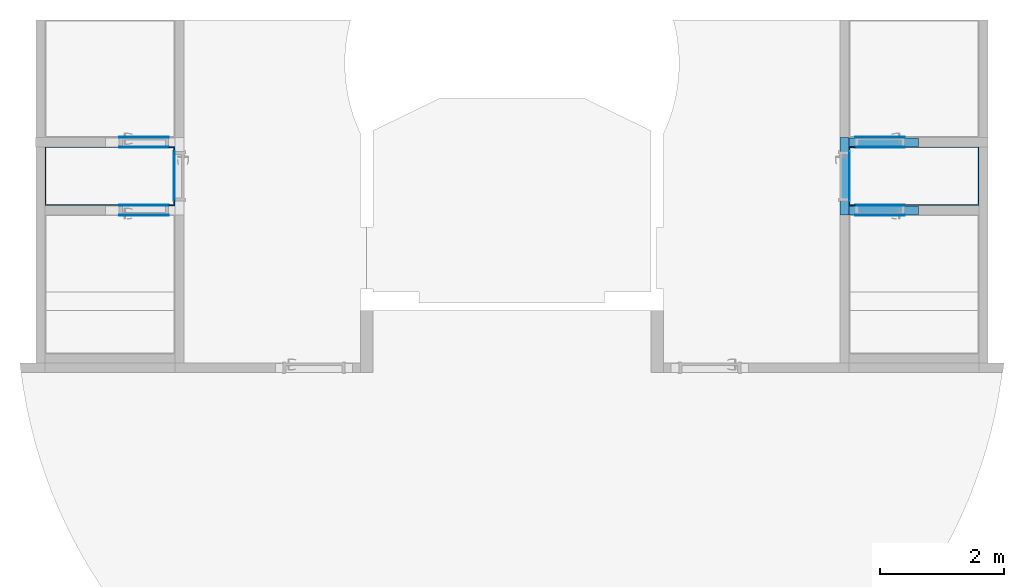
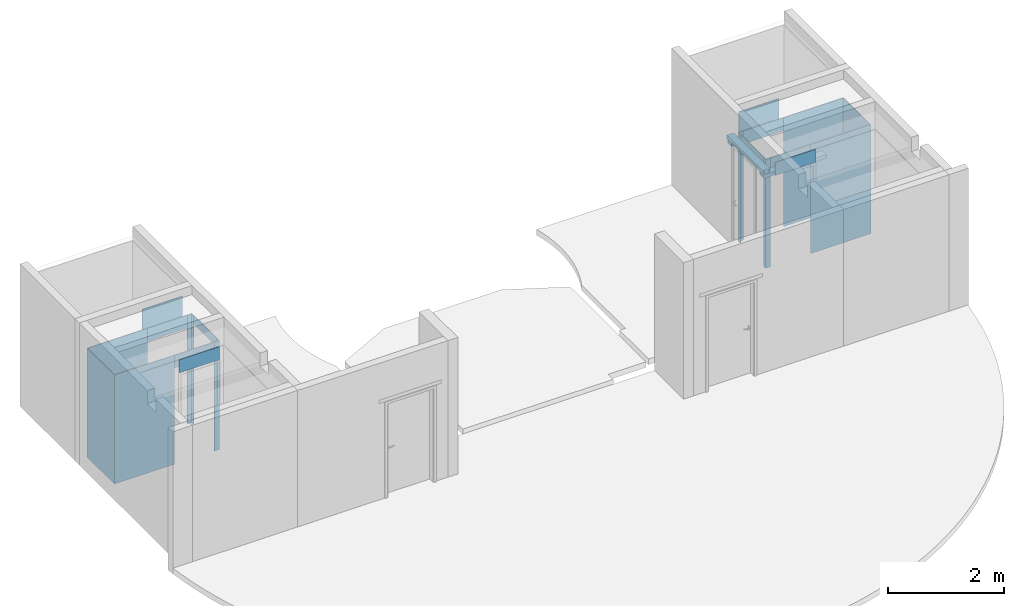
# One storey, part 2 of 17: 16 slabs, 3 beams.
"""IFC4 building model written with IfcOpenShell, lengths in millimetres."""

from ifc_helpers import new_model, entity, si_unit, converted_unit, derived_unit, direction, frame, origin_with_axes, place, context, subcontext, project, spatial, polygons, source, transform, mapped, material, type_object, element, save


model = new_model("IFC4")

# Units and contexts
model_context = context("Model", 3, precision=0.01, world=origin_with_axes(), true_north=direction((0.0, 1.0)))
body_context = subcontext(model_context, "Body", "Model", "MODEL_VIEW")
ifc_project = project(units=[si_unit("LENGTHUNIT", "METRE", prefix="MILLI"), si_unit("AREAUNIT", "SQUARE_METRE"), si_unit("VOLUMEUNIT", "CUBIC_METRE"), converted_unit("PLANEANGLEUNIT", "DEGREE", entity("IfcPlaneAngleMeasure", 0.0174532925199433), si_unit("PLANEANGLEUNIT", "RADIAN"), dimensions=[0, 0, 0, 0, 0, 0, 0]), converted_unit("TIMEUNIT", "Year", entity("IfcTimeMeasure", 31557600.0), si_unit("TIMEUNIT", "SECOND"), dimensions=[0, 0, 1, 0, 0, 0, 0]), si_unit("MASSUNIT", "GRAM", prefix="KILO"), si_unit("THERMODYNAMICTEMPERATUREUNIT", "DEGREE_CELSIUS"), si_unit("LUMINOUSINTENSITYUNIT", "LUMEN"), si_unit("ENERGYUNIT", "JOULE", prefix="MEGA"), derived_unit("THERMALCONDUCTANCEUNIT", [(si_unit("POWERUNIT", "WATT"), 1), (si_unit("LENGTHUNIT", "METRE"), -1), (si_unit("THERMODYNAMICTEMPERATUREUNIT", "KELVIN"), -1)]), derived_unit("SPECIFICHEATCAPACITYUNIT", [(si_unit("ENERGYUNIT", "JOULE"), 1), (si_unit("MASSUNIT", "GRAM", prefix="KILO"), -1), (si_unit("THERMODYNAMICTEMPERATUREUNIT", "KELVIN"), -1)]), derived_unit("MASSDENSITYUNIT", [(si_unit("MASSUNIT", "GRAM", prefix="KILO"), 1), (si_unit("VOLUMEUNIT", "CUBIC_METRE"), -1)])], contexts=[model_context])

# Site, building, storey
site_placement = place(None, origin_with_axes())
site = spatial("IfcSite", under=ifc_project, at=site_placement, Name="Exteriér", CompositionType="ELEMENT")
building_placement = place(site_placement, origin_with_axes())
building = spatial("IfcBuilding", under=site, at=building_placement, Name="Univerzitní lezecké centrum", CompositionType="ELEMENT")
storey_placement = place(building_placement, frame((0.0, 0.0, 3200.0), z_axis=(0.0, 0.0, 1.0), x_axis=(1.0, 0.0, 0.0)))
storey = spatial("IfcBuildingStorey", under=building, at=storey_placement, Name="2.NP", CompositionType="ELEMENT", Elevation=3200.0)

# Beams
beam_type = type_object("IfcBeamType", Name="PTH Překlad KP 11,5 a 14,5", PredefinedType="BEAM")
shared_shape = source(origin_with_axes(), body_context, "Body", "Tessellation", [
    polygons([(-625.0, 44.3486623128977, 71.00000000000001), (-625.0, 0.0, 71.00000000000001), (625.0, 0.0, 71.00000000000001), (625.0, 44.34866231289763, 71.00000000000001), (-625.0, 44.34866231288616, 36.49999605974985), (-625.0, 46.47223501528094, 31.73716465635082), (-625.0, 49.39641603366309, 27.4240948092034), (-625.0, 53.02998777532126, 23.69532943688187), (-625.0, 57.25960374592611, 20.66718452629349), (-625.0, 61.95332430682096, 18.4341207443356), (-625.0, 66.96473243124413, 17.06579680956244), (-625.0, 72.13750107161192, 16.60489654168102), (-625.0, 77.31026966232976, 17.06579737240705), (-625.0, 82.32167763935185, 18.43412185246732), (-625.0, 87.01539795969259, 20.66718614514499), (-625.0, 91.24501360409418, 23.69533151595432), (-625.0, 94.87858494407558, 27.42409728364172), (-625.0, 97.80276549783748, 31.7371674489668), (-625.0, 99.92633768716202, 36.49999908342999), (-625.0, 99.926337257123, 71.00000000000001), (-625.0, 144.274998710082, 71.0), (-625.0, 144.274998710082, 0.0), (-625.0, 0.0, 0.0), (-625.0, 11.4425, 10.49963740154), (-625.0, 33.3325, 10.49963740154), (-625.0, 33.3325, 30.49963740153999), (-625.0, 11.4425, 30.49963740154), (-625.0, 11.4425, 40.5), (-625.0, 33.3325, 40.5), (-625.0, 33.33250000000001, 60.5), (-625.0, 11.4425, 60.5), (-625.0, 132.83136377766, 10.49963740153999), (-625.0, 132.83136377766, 30.49963740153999), (-625.0, 110.94136377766, 30.49963740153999), (-625.0, 110.94136377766, 10.49963740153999), (-625.0, 110.94136377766, 60.49999999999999), (-625.0, 110.94136377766, 40.49999999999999), (-625.0, 132.83136377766, 40.49999999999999), (-625.0, 132.83136377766, 60.49999999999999), (625.0, 0.0, 0.0), (625.0, 144.2749987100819, 0.0), (625.0, 144.2749987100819, 71.0), (625.0, 99.92633725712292, 71.00000000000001), (625.0, 99.92633768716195, 36.49999908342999), (625.0, 97.80276549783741, 31.7371674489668), (625.0, 94.87858494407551, 27.42409728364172), (625.0, 91.24501360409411, 23.69533151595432), (625.0, 87.01539795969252, 20.66718614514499), (625.0, 82.32167763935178, 18.43412185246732), (625.0, 77.31026966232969, 17.06579737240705), (625.0, 72.13750107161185, 16.60489654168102), (625.0, 66.96473243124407, 17.06579680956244), (625.0, 61.95332430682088, 18.4341207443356), (625.0, 57.25960374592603, 20.66718452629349), (625.0, 53.02998777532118, 23.69532943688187), (625.0, 49.39641603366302, 27.4240948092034), (625.0, 46.47223501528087, 31.73716465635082), (625.0, 44.34866231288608, 36.49999605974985), (625.0, 11.44249999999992, 10.49963740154), (625.0, 11.44249999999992, 30.49963740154), (625.0, 33.33249999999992, 30.49963740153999), (625.0, 33.33249999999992, 10.49963740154), (625.0, 11.44249999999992, 40.5), (625.0, 11.44249999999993, 60.5), (625.0, 33.33249999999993, 60.5), (625.0, 33.33249999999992, 40.5), (625.0, 132.8313637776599, 10.49963740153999), (625.0, 110.9413637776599, 10.49963740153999), (625.0, 110.9413637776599, 30.49963740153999), (625.0, 132.8313637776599, 30.49963740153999), (625.0, 110.9413637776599, 60.49999999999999), (625.0, 132.8313637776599, 60.49999999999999), (625.0, 132.8313637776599, 40.49999999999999), (625.0, 110.9413637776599, 40.49999999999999)], [[[1, 2, 3, 4]], [[1, 5, 6, 7, 8, 9, 10, 11, 12, 13, 14, 15, 16, 17, 18, 19, 20, 21, 22, 23, 2], [24, 25, 26, 27], [28, 29, 30, 31], [32, 33, 34, 35], [36, 37, 38, 39]], [[2, 23, 40, 3]], [[4, 3, 40, 41, 42, 43, 44, 45, 46, 47, 48, 49, 50, 51, 52, 53, 54, 55, 56, 57, 58], [59, 60, 61, 62], [63, 64, 65, 66], [67, 68, 69, 70], [71, 72, 73, 74]], [[5, 1, 4, 58]], [[6, 5, 58, 57]], [[7, 6, 57, 56]], [[8, 7, 56, 55]], [[9, 8, 55, 54]], [[10, 9, 54, 53]], [[11, 10, 53, 52]], [[12, 11, 52, 51]], [[13, 12, 51, 50]], [[14, 13, 50, 49]], [[15, 14, 49, 48]], [[16, 15, 48, 47]], [[17, 16, 47, 46]], [[18, 17, 46, 45]], [[19, 18, 45, 44]], [[20, 19, 44, 43]], [[21, 20, 43, 42]], [[22, 21, 42, 41]], [[23, 22, 41, 40]], [[25, 24, 59, 62]], [[26, 25, 62, 61]], [[27, 26, 61, 60]], [[24, 27, 60, 59]], [[29, 28, 63, 66]], [[30, 29, 66, 65]], [[31, 30, 65, 64]], [[28, 31, 64, 63]], [[33, 32, 67, 70]], [[34, 33, 70, 69]], [[35, 34, 69, 68]], [[32, 35, 68, 67]], [[37, 36, 71, 74]], [[38, 37, 74, 73]], [[39, 38, 73, 72]], [[36, 39, 72, 71]]], closed=True),
    polygons([(-625.0, 44.34866231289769, 36.5), (-625.0, 46.47223492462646, 31.73716874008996), (625.0, 46.47223492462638, 31.73716874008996), (625.0, 44.34866231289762, 36.5), (-625.0, 44.3486623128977, 71.00000000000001), (-625.0, 99.926337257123, 71.00000000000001), (-625.0, 99.92633725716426, 36.50000000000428), (-625.0, 97.80276464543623, 31.7371687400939), (-625.0, 94.87858377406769, 27.42409899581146), (-625.0, 91.24501222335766, 23.69533367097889), (-625.0, 87.0153964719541, 20.66718874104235), (-625.0, 82.32167614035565, 18.43412486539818), (-625.0, 77.31026823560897, 17.06580075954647), (-625.0, 72.1374997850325, 16.60490024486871), (-625.0, 66.96473133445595, 17.06580075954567), (-625.0, 61.95332342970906, 18.4341248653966), (-625.0, 57.25960309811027, 20.66718874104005), (-625.0, 53.02998734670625, 23.69533367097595), (-625.0, 49.39641579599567, 27.42409899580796), (-625.0, 78.10749978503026, 42.49999925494), (-625.0, 78.01680207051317, 43.54188832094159), (-625.0, 77.74746473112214, 44.55212011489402), (-625.0, 77.30767144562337, 45.49999925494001), (-625.0, 76.71078511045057, 46.35672491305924), (-625.0, 75.97494181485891, 47.09626591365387), (-625.0, 75.12249978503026, 47.69615167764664), (-625.0, 74.17936004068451, 48.13815497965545), (-625.0, 73.17417940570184, 48.40884577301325), (-625.0, 72.13749978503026, 48.49999925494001), (-625.0, 71.1008201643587, 48.40884577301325), (-625.0, 70.09563952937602, 48.13815497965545), (-625.0, 69.15249978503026, 47.69615167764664), (-625.0, 68.30005775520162, 47.09626591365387), (-625.0, 67.56421445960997, 46.35672491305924), (-625.0, 66.96732812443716, 45.49999925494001), (-625.0, 66.5275348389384, 44.55212011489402), (-625.0, 66.25819749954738, 43.54188832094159), (-625.0, 66.16749978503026, 42.49999925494), (-625.0, 66.25819749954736, 41.45811018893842), (-625.0, 66.52753483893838, 40.44787839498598), (-625.0, 66.96732812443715, 39.49999925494), (-625.0, 67.56421445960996, 38.64327359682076), (-625.0, 68.3000577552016, 37.90373259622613), (-625.0, 69.15249978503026, 37.30384683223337), (-625.0, 70.09563952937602, 36.86184353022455), (-625.0, 71.1008201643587, 36.59115273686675), (-625.0, 72.13749978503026, 36.49999925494), (-625.0, 73.17417940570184, 36.59115273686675), (-625.0, 74.17936004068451, 36.86184353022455), (-625.0, 75.12249978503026, 37.30384683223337), (-625.0, 75.9749418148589, 37.90373259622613), (-625.0, 76.71078511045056, 38.64327359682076), (-625.0, 77.30767144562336, 39.49999925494), (-625.0, 77.74746473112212, 40.44787839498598), (-625.0, 78.01680207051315, 41.45811018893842), (625.0, 49.39641579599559, 27.42409899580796), (625.0, 53.02998734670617, 23.69533367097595), (625.0, 57.25960309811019, 20.66718874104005), (625.0, 61.95332342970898, 18.4341248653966), (625.0, 66.96473133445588, 17.06580075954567), (625.0, 72.13749978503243, 16.60490024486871), (625.0, 77.3102682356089, 17.06580075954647), (625.0, 82.32167614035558, 18.43412486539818), (625.0, 87.01539647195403, 20.66718874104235), (625.0, 91.24501222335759, 23.69533367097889), (625.0, 94.87858377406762, 27.42409899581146), (625.0, 97.80276464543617, 31.7371687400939), (625.0, 99.92633725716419, 36.50000000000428), (625.0, 99.92633725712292, 71.00000000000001), (625.0, 44.34866231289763, 71.00000000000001), (625.0, 78.10749978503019, 42.49999925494), (625.0, 78.01680207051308, 41.45811018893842), (625.0, 77.74746473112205, 40.44787839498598), (625.0, 77.30767144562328, 39.49999925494), (625.0, 76.71078511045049, 38.64327359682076), (625.0, 75.97494181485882, 37.90373259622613), (625.0, 75.12249978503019, 37.30384683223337), (625.0, 74.17936004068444, 36.86184353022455), (625.0, 73.17417940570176, 36.59115273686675), (625.0, 72.13749978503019, 36.49999925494), (625.0, 71.10082016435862, 36.59115273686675), (625.0, 70.09563952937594, 36.86184353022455), (625.0, 69.15249978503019, 37.30384683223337), (625.0, 68.30005775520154, 37.90373259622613), (625.0, 67.56421445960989, 38.64327359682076), (625.0, 66.96732812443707, 39.49999925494), (625.0, 66.52753483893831, 40.44787839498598), (625.0, 66.2581974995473, 41.45811018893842), (625.0, 66.16749978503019, 42.49999925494), (625.0, 66.25819749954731, 43.54188832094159), (625.0, 66.52753483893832, 44.55212011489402), (625.0, 66.96732812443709, 45.49999925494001), (625.0, 67.5642144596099, 46.35672491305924), (625.0, 68.30005775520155, 47.09626591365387), (625.0, 69.15249978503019, 47.69615167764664), (625.0, 70.09563952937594, 48.13815497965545), (625.0, 71.10082016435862, 48.40884577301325), (625.0, 72.13749978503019, 48.49999925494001), (625.0, 73.17417940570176, 48.40884577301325), (625.0, 74.17936004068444, 48.13815497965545), (625.0, 75.12249978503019, 47.69615167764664), (625.0, 75.97494181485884, 47.09626591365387), (625.0, 76.7107851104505, 46.35672491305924), (625.0, 77.3076714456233, 45.49999925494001), (625.0, 77.74746473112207, 44.55212011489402), (625.0, 78.0168020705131, 43.54188832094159)], [[[1, 2, 3, 4]], [[1, 5, 6, 7, 8, 9, 10, 11, 12, 13, 14, 15, 16, 17, 18, 19, 2], [20, 21, 22, 23, 24, 25, 26, 27, 28, 29, 30, 31, 32, 33, 34, 35, 36, 37, 38, 39, 40, 41, 42, 43, 44, 45, 46, 47, 48, 49, 50, 51, 52, 53, 54, 55]], [[2, 19, 56, 3]], [[4, 3, 56, 57, 58, 59, 60, 61, 62, 63, 64, 65, 66, 67, 68, 69, 70], [71, 72, 73, 74, 75, 76, 77, 78, 79, 80, 81, 82, 83, 84, 85, 86, 87, 88, 89, 90, 91, 92, 93, 94, 95, 96, 97, 98, 99, 100, 101, 102, 103, 104, 105, 106]], [[5, 1, 4, 70]], [[6, 5, 70, 69]], [[7, 6, 69, 68]], [[8, 7, 68, 67]], [[9, 8, 67, 66]], [[10, 9, 66, 65]], [[11, 10, 65, 64]], [[12, 11, 64, 63]], [[13, 12, 63, 62]], [[14, 13, 62, 61]], [[15, 14, 61, 60]], [[16, 15, 60, 59]], [[17, 16, 59, 58]], [[18, 17, 58, 57]], [[19, 18, 57, 56]], [[21, 20, 71, 106]], [[22, 21, 106, 105]], [[23, 22, 105, 104]], [[24, 23, 104, 103]], [[25, 24, 103, 102]], [[26, 25, 102, 101]], [[27, 26, 101, 100]], [[28, 27, 100, 99]], [[29, 28, 99, 98]], [[30, 29, 98, 97]], [[31, 30, 97, 96]], [[32, 31, 96, 95]], [[33, 32, 95, 94]], [[34, 33, 94, 93]], [[35, 34, 93, 92]], [[36, 35, 92, 91]], [[37, 36, 91, 90]], [[38, 37, 90, 89]], [[39, 38, 89, 88]], [[40, 39, 88, 87]], [[41, 40, 87, 86]], [[42, 41, 86, 85]], [[43, 42, 85, 84]], [[44, 43, 84, 83]], [[45, 44, 83, 82]], [[46, 45, 82, 81]], [[47, 46, 81, 80]], [[48, 47, 80, 79]], [[49, 48, 79, 78]], [[50, 49, 78, 77]], [[51, 50, 77, 76]], [[52, 51, 76, 75]], [[53, 52, 75, 74]], [[54, 53, 74, 73]], [[55, 54, 73, 72]], [[20, 55, 72, 71]]], closed=True),
    polygons([(-625.0, 66.16749978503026, 42.49999925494), (-625.0, 66.25819749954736, 41.45811018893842), (625.0, 66.2581974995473, 41.45811018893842), (625.0, 66.16749978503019, 42.49999925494), (-625.0, 66.25819749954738, 43.54188832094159), (-625.0, 66.5275348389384, 44.55212011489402), (-625.0, 66.96732812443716, 45.49999925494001), (-625.0, 67.56421445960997, 46.35672491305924), (-625.0, 68.30005775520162, 47.09626591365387), (-625.0, 69.15249978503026, 47.69615167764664), (-625.0, 70.09563952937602, 48.13815497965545), (-625.0, 71.1008201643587, 48.40884577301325), (-625.0, 72.13749978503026, 48.49999925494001), (-625.0, 73.17417940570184, 48.40884577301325), (-625.0, 74.17936004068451, 48.13815497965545), (-625.0, 75.12249978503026, 47.69615167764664), (-625.0, 75.97494181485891, 47.09626591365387), (-625.0, 76.71078511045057, 46.35672491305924), (-625.0, 77.30767144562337, 45.49999925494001), (-625.0, 77.74746473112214, 44.55212011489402), (-625.0, 78.01680207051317, 43.54188832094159), (-625.0, 78.10749978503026, 42.49999925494), (-625.0, 78.01680207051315, 41.45811018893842), (-625.0, 77.74746473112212, 40.44787839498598), (-625.0, 77.30767144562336, 39.49999925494), (-625.0, 76.71078511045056, 38.64327359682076), (-625.0, 75.9749418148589, 37.90373259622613), (-625.0, 75.12249978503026, 37.30384683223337), (-625.0, 74.17936004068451, 36.86184353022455), (-625.0, 73.17417940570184, 36.59115273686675), (-625.0, 72.13749978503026, 36.49999925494), (-625.0, 71.1008201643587, 36.59115273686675), (-625.0, 70.09563952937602, 36.86184353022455), (-625.0, 69.15249978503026, 37.30384683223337), (-625.0, 68.3000577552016, 37.90373259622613), (-625.0, 67.56421445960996, 38.64327359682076), (-625.0, 66.96732812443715, 39.49999925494), (-625.0, 66.52753483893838, 40.44787839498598), (625.0, 66.52753483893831, 40.44787839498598), (625.0, 66.96732812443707, 39.49999925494), (625.0, 67.56421445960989, 38.64327359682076), (625.0, 68.30005775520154, 37.90373259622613), (625.0, 69.15249978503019, 37.30384683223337), (625.0, 70.09563952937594, 36.86184353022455), (625.0, 71.10082016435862, 36.59115273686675), (625.0, 72.13749978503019, 36.49999925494), (625.0, 73.17417940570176, 36.59115273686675), (625.0, 74.17936004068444, 36.86184353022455), (625.0, 75.12249978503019, 37.30384683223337), (625.0, 75.97494181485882, 37.90373259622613), (625.0, 76.71078511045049, 38.64327359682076), (625.0, 77.30767144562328, 39.49999925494), (625.0, 77.74746473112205, 40.44787839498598), (625.0, 78.01680207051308, 41.45811018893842), (625.0, 78.10749978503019, 42.49999925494), (625.0, 78.0168020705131, 43.54188832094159), (625.0, 77.74746473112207, 44.55212011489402), (625.0, 77.3076714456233, 45.49999925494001), (625.0, 76.7107851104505, 46.35672491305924), (625.0, 75.97494181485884, 47.09626591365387), (625.0, 75.12249978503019, 47.69615167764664), (625.0, 74.17936004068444, 48.13815497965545), (625.0, 73.17417940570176, 48.40884577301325), (625.0, 72.13749978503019, 48.49999925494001), (625.0, 71.10082016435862, 48.40884577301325), (625.0, 70.09563952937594, 48.13815497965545), (625.0, 69.15249978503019, 47.69615167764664), (625.0, 68.30005775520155, 47.09626591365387), (625.0, 67.5642144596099, 46.35672491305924), (625.0, 66.96732812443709, 45.49999925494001), (625.0, 66.52753483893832, 44.55212011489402), (625.0, 66.25819749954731, 43.54188832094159)], [[[1, 2, 3, 4]], [[1, 5, 6, 7, 8, 9, 10, 11, 12, 13, 14, 15, 16, 17, 18, 19, 20, 21, 22, 23, 24, 25, 26, 27, 28, 29, 30, 31, 32, 33, 34, 35, 36, 37, 38, 2]], [[2, 38, 39, 3]], [[4, 3, 39, 40, 41, 42, 43, 44, 45, 46, 47, 48, 49, 50, 51, 52, 53, 54, 55, 56, 57, 58, 59, 60, 61, 62, 63, 64, 65, 66, 67, 68, 69, 70, 71, 72]], [[5, 1, 4, 72]], [[6, 5, 72, 71]], [[7, 6, 71, 70]], [[8, 7, 70, 69]], [[9, 8, 69, 68]], [[10, 9, 68, 67]], [[11, 10, 67, 66]], [[12, 11, 66, 65]], [[13, 12, 65, 64]], [[14, 13, 64, 63]], [[15, 14, 63, 62]], [[16, 15, 62, 61]], [[17, 16, 61, 60]], [[18, 17, 60, 59]], [[19, 18, 59, 58]], [[20, 19, 58, 57]], [[21, 20, 57, 56]], [[22, 21, 56, 55]], [[23, 22, 55, 54]], [[24, 23, 54, 53]], [[25, 24, 53, 52]], [[26, 25, 52, 51]], [[27, 26, 51, 50]], [[28, 27, 50, 49]], [[29, 28, 49, 48]], [[30, 29, 48, 47]], [[31, 30, 47, 46]], [[32, 31, 46, 45]], [[33, 32, 45, 44]], [[34, 33, 44, 43]], [[35, 34, 43, 42]], [[36, 35, 42, 41]], [[37, 36, 41, 40]], [[38, 37, 40, 39]]], closed=True),
])
for number, where, z_axis, x_axis, name in (
    (1, (8400.055063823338, 1250.031951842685, 2030.0), (0.0, 0.0, 1.0), (1.0, 0.0, 0.0), "Pk01"),
    (2, (8400.047690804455, 2349.999999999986, 2030.0), (0.0, 0.0, 1.0), (1.0, 0.0, 0.0), "Pk01"),
    (3, (7900.05506442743, 1874.999999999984, 2130.0), (0.0, 0.0, 1.0), (0.0, 1.0, 0.0), "Pk01"),
):
    element("IfcBeam", number, at=place(storey_placement, frame(where, z_axis=z_axis, x_axis=x_axis)), inside=storey, type_object=beam_type, Name=name, PredefinedType="BEAM", context=body_context, shape_type="MappedRepresentation", body=[
        mapped(shared_shape, transform((0.0, 0.0, 0.0))),
    ])

# Slabs
ifc_material = material(Name="Keramická dlažba 20x40 - obklad")
slab_type_1 = type_object("IfcSlabType", Name="Keramická dlažba 20x40 - obklad 2300", PredefinedType="FLOOR")
slab_1_placement = place(storey_placement, frame((-3900.344399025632, 2350.000000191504, 2300.0), z_axis=(0.0, 0.0, 1.0), x_axis=(1.0, 0.0, 0.0)))
element("IfcSlab", 4, at=slab_1_placement, inside=storey, type_object=slab_type_1, material=ifc_material, PredefinedType="FLOOR", context=body_context, shape_type="Tessellation", body=[
    polygons([(0.0, 0.0, 0.0), (0.0, 0.0, -2300.0), (-1199.803952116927, 0.0, -2300.0), (-1199.803952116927, 0.0, 0.0), (0.0, -14.99999975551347, 0.0), (0.0, -14.99999975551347, -2300.0), (-1184.803952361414, -14.99999975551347, -2300.0), (-1184.803952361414, -934.9926213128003, -2300.0), (0.0, -934.9926213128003, -2300.0), (0.0, -949.9926210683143, -2300.0), (-1199.803952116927, -949.9926210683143, -2300.0), (-1199.803952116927, -949.9926210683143, 0.0), (0.0, -949.9926210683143, 0.0), (0.0, -934.9926213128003, 0.0), (-1184.803952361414, -934.9926213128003, 0.0), (-1184.803952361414, -14.99999975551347, 0.0)], [[[1, 2, 3, 4]], [[5, 6, 2, 1]], [[3, 2, 6, 7, 8, 9, 10, 11]], [[4, 3, 11, 12]], [[5, 1, 4, 12, 13, 14, 15, 16]], [[16, 7, 6, 5]], [[15, 8, 7, 16]], [[14, 9, 8, 15]], [[13, 10, 9, 14]], [[12, 11, 10, 13]]], closed=True),
])
slab_2_placement = place(storey_placement, frame((-3100.351769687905, 1400.007379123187, 2300.0), z_axis=(0.0, 0.0, 1.0), x_axis=(1.0, 0.0, 0.0)))
element("IfcSlab", 5, at=slab_2_placement, inside=storey, type_object=slab_type_1, material=ifc_material, PredefinedType="FLOOR", context=body_context, shape_type="Tessellation", body=[
    polygons([(0.0, 0.0, 0.0), (0.0, 0.0, -2300.0), (99.99999887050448, 0.0, -2300.0), (99.99999887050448, 0.0, 0.0), (0.0, 15.00000195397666, 0.0), (0.0, 15.00000195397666, -2300.0), (84.99999691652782, 15.00000195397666, -2300.0), (84.99999691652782, 74.99262033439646, -2300.0), (99.99999887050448, 74.99262033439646, -2300.0), (99.99999887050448, 74.99262033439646, 0.0), (84.99999691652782, 74.99262033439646, 0.0), (84.99999691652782, 15.00000195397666, 0.0)], [[[1, 2, 3, 4]], [[5, 6, 2, 1]], [[3, 2, 6, 7, 8, 9]], [[4, 3, 9, 10]], [[5, 1, 4, 10, 11, 12]], [[12, 7, 6, 5]], [[11, 8, 7, 12]], [[10, 9, 8, 11]]], closed=True),
])
slab_3_placement = place(storey_placement, frame((-3100.351769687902, 2334.999998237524, 2300.0), z_axis=(0.0, 0.0, 1.0), x_axis=(1.0, 0.0, 0.0)))
element("IfcSlab", 6, at=slab_3_placement, inside=storey, type_object=slab_type_1, material=ifc_material, PredefinedType="FLOOR", context=body_context, shape_type="Tessellation", body=[
    polygons([(0.0, 0.0, 0.0), (0.0, 0.0, -2300.0), (84.99999691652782, 0.0, -2300.0), (84.99999691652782, 0.0, 0.0), (0.0, 15.00000195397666, 0.0), (0.0, 15.00000195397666, -2300.0), (99.99999887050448, 15.00000195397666, -2300.0), (99.99999887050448, -59.99999365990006, -2300.0), (84.99999691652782, -59.99999365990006, -2300.0), (84.99999691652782, -59.99999365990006, 0.0), (99.99999887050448, -59.99999365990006, 0.0), (99.99999887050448, 15.00000195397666, 0.0)], [[[1, 2, 3, 4]], [[5, 6, 2, 1]], [[3, 2, 6, 7, 8, 9]], [[4, 3, 9, 10]], [[5, 1, 4, 10, 11, 12]], [[12, 7, 6, 5]], [[11, 8, 7, 12]], [[10, 9, 8, 11]]], closed=True),
])
slab_4_placement = place(storey_placement, frame((8800.089551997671, 2350.000000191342, 2300.0), z_axis=(0.0, 0.0, 1.0), x_axis=(1.0, 0.0, 0.0)))
element("IfcSlab", 7, at=slab_4_placement, inside=storey, type_object=slab_type_1, material=ifc_material, PredefinedType="FLOOR", context=body_context, shape_type="Tessellation", body=[
    polygons([(0.0, 0.0, 0.0), (0.0, 0.0, -2300.0), (0.0, -14.99999975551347, -2300.0), (0.0, -14.99999975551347, 0.0), (1199.803952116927, 0.0, 0.0), (1199.803952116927, 0.0, -2300.0), (1199.803952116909, -949.9926210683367, -2300.0), (0.0, -949.9926210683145, -2300.0), (0.0, -934.9926213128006, -2300.0), (1184.803952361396, -934.9926213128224, -2300.0), (1184.803952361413, -14.99999975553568, -2300.0), (1184.803952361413, -14.99999975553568, 0.0), (1184.803952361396, -934.9926213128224, 0.0), (0.0, -934.9926213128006, 0.0), (0.0, -949.9926210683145, 0.0), (1199.803952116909, -949.9926210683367, 0.0)], [[[1, 2, 3, 4]], [[5, 6, 2, 1]], [[3, 2, 6, 7, 8, 9, 10, 11]], [[4, 3, 11, 12]], [[5, 1, 4, 12, 13, 14, 15, 16]], [[16, 7, 6, 5]], [[15, 8, 7, 16]], [[14, 9, 8, 15]], [[13, 10, 9, 14]], [[12, 11, 10, 13]]], closed=True),
])
slab_5_placement = place(storey_placement, frame((8000.096922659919, 1400.007379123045, 2300.0), z_axis=(0.0, 0.0, 1.0), x_axis=(1.0, 0.0, 0.0)))
element("IfcSlab", 8, at=slab_5_placement, inside=storey, type_object=slab_type_1, material=ifc_material, PredefinedType="FLOOR", context=body_context, shape_type="Tessellation", body=[
    polygons([(0.0, 0.0, 0.0), (0.0, 0.0, -2300.0), (0.0, 15.00000195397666, -2300.0), (0.0, 15.00000195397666, 0.0), (-99.99999887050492, 0.0, 0.0), (-99.99999887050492, 0.0, -2300.0), (-99.99999887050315, 74.99262033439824, -2300.0), (-84.99999691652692, 74.99262033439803, -2300.0), (-84.99999691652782, 15.00000195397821, -2300.0), (-84.99999691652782, 15.00000195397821, 0.0), (-84.99999691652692, 74.99262033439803, 0.0), (-99.99999887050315, 74.99262033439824, 0.0)], [[[1, 2, 3, 4]], [[5, 6, 2, 1]], [[3, 2, 6, 7, 8, 9]], [[4, 3, 9, 10]], [[5, 1, 4, 10, 11, 12]], [[12, 7, 6, 5]], [[11, 8, 7, 12]], [[10, 9, 8, 11]]], closed=True),
])
slab_6_placement = place(storey_placement, frame((8000.096922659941, 2334.999998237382, 2300.0), z_axis=(0.0, 0.0, 1.0), x_axis=(1.0, 0.0, 0.0)))
element("IfcSlab", 9, at=slab_6_placement, inside=storey, type_object=slab_type_1, material=ifc_material, PredefinedType="FLOOR", context=body_context, shape_type="Tessellation", body=[
    polygons([(0.0, 0.0, 0.0), (0.0, 0.0, -2300.0), (0.0, 15.00000195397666, -2300.0), (0.0, 15.00000195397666, 0.0), (-84.99999691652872, 0.0, 0.0), (-84.99999691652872, 0.0, -2300.0), (-84.9999969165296, -59.99999365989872, -2300.0), (-99.9999988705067, -59.99999365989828, -2300.0), (-99.99999887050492, 15.00000195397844, -2300.0), (-99.99999887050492, 15.00000195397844, 0.0), (-99.9999988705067, -59.99999365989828, 0.0), (-84.9999969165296, -59.99999365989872, 0.0)], [[[1, 2, 3, 4]], [[5, 6, 2, 1]], [[3, 2, 6, 7, 8, 9]], [[4, 3, 9, 10]], [[5, 1, 4, 10, 11, 12]], [[12, 7, 6, 5]], [[11, 8, 7, 12]], [[10, 9, 8, 11]]], closed=True),
])
slab_type_2 = type_object("IfcSlabType", Name="Keramická dlažba 20x40 - obklad 575", PredefinedType="FLOOR")
slab_7_placement = place(storey_placement, frame((8800.089551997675, 2499.999989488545, 2600.0), z_axis=(0.0, 0.0, 1.0), x_axis=(1.0, 0.0, 0.0)))
element("IfcSlab", 10, at=slab_7_placement, inside=storey, type_object=slab_type_2, material=ifc_material, PredefinedType="FLOOR", context=body_context, shape_type="Tessellation", body=[
    polygons([(0.0, 0.0, 0.0), (0.0, 0.0, -575.0000000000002), (0.0, 14.99999764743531, -575.0000000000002), (0.0, 14.99999764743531, 0.0), (-800.0000309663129, 0.0, 0.0), (-800.0000309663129, 0.0, -575.0000000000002), (-800.0000309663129, 14.99999764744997, -575.0000000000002), (-800.0000309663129, 14.99999764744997, 0.0)], [[[1, 2, 3, 4]], [[5, 6, 2, 1]], [[3, 2, 6, 7]], [[4, 3, 7, 8]], [[5, 1, 4, 8]], [[8, 7, 6, 5]]], closed=True),
])
slab_8_placement = place(storey_placement, frame((-3900.344399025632, 2499.999989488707, 2600.0), z_axis=(0.0, 0.0, 1.0), x_axis=(1.0, 0.0, 0.0)))
element("IfcSlab", 11, at=slab_8_placement, inside=storey, type_object=slab_type_2, material=ifc_material, PredefinedType="FLOOR", context=body_context, shape_type="Tessellation", body=[
    polygons([(0.0, 0.0, 0.0), (0.0, 0.0, -575.0000000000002), (800.0000309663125, 0.0, -575.0000000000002), (800.0000309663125, 0.0, 0.0), (0.0, 14.99999764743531, 0.0), (0.0, 14.99999764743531, -575.0000000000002), (800.0000309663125, 14.99999764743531, -575.0000000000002), (800.0000309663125, 14.99999764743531, 0.0)], [[[1, 2, 3, 4]], [[5, 6, 2, 1]], [[3, 2, 6, 7]], [[4, 3, 7, 8]], [[5, 1, 4, 8]], [[8, 7, 6, 5]]], closed=True),
])
slab_type_3 = type_object("IfcSlabType", Name="Keramická dlažba 20x40 - obklad 175", PredefinedType="FLOOR")
slab_9_placement = place(storey_placement, frame((7915.096925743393, 1474.999999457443, 2300.0), z_axis=(0.0, 0.0, 1.0), x_axis=(1.0, 0.0, 0.0)))
element("IfcSlab", 12, at=slab_9_placement, inside=storey, type_object=slab_type_3, material=ifc_material, PredefinedType="FLOOR", context=body_context, shape_type="Tessellation", body=[
    polygons([(0.0, 0.0, 0.0), (0.0, 0.0, -175.0000000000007), (0.0, 800.0000051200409, -175.0000000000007), (0.0, 800.0000051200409, 0.0), (-15.00000195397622, 0.0, 0.0), (-15.00000195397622, 0.0, -175.0000000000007), (-15.00000195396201, 800.0000051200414, -175.0000000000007), (-15.00000195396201, 800.0000051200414, 0.0)], [[[1, 2, 3, 4]], [[5, 6, 2, 1]], [[3, 2, 6, 7]], [[4, 3, 7, 8]], [[5, 1, 4, 8]], [[8, 7, 6, 5]]], closed=True),
])
slab_10_placement = place(storey_placement, frame((-3015.351772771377, 1474.999999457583, 2300.0), z_axis=(0.0, 0.0, 1.0), x_axis=(1.0, 0.0, 0.0)))
element("IfcSlab", 13, at=slab_10_placement, inside=storey, type_object=slab_type_3, material=ifc_material, PredefinedType="FLOOR", context=body_context, shape_type="Tessellation", body=[
    polygons([(0.0, 0.0, 0.0), (0.0, 0.0, -175.0000000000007), (15.00000195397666, 0.0, -175.0000000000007), (15.00000195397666, 0.0, 0.0), (0.0, 800.0000051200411, 0.0), (0.0, 800.0000051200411, -175.0000000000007), (15.00000195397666, 800.0000051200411, -175.0000000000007), (15.00000195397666, 800.0000051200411, 0.0)], [[[1, 2, 3, 4]], [[5, 6, 2, 1]], [[3, 2, 6, 7]], [[4, 3, 7, 8]], [[5, 1, 4, 8]], [[8, 7, 6, 5]]], closed=True),
])
slab_type_4 = type_object("IfcSlabType", Name="Keramická dlažba 20x40 - obklad 275", PredefinedType="FLOOR")
slab_11_placement = place(storey_placement, frame((8800.08955199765, 1400.007381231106, 2300.0), z_axis=(0.0, 0.0, 1.0), x_axis=(1.0, 0.0, 0.0)))
element("IfcSlab", 14, at=slab_11_placement, inside=storey, type_object=slab_type_4, material=ifc_material, PredefinedType="FLOOR", context=body_context, shape_type="Tessellation", body=[
    polygons([(0.0, 0.0, 0.0), (0.0, 0.0, -275.0000000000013), (0.0, 14.99999764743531, -275.0000000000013), (0.0, 14.99999764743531, 0.0), (-800.0000309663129, 0.0, 0.0), (-800.0000309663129, 0.0, -275.0000000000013), (-800.0000309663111, 14.99999764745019, -275.0000000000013), (-800.0000309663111, 14.99999764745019, 0.0)], [[[1, 2, 3, 4]], [[5, 6, 2, 1]], [[3, 2, 6, 7]], [[4, 3, 7, 8]], [[5, 1, 4, 8]], [[8, 7, 6, 5]]], closed=True),
])
slab_12_placement = place(storey_placement, frame((8800.089561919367, 1235.014760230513, 2300.0), z_axis=(0.0, 0.0, 1.0), x_axis=(1.0, 0.0, 0.0)))
element("IfcSlab", 15, at=slab_12_placement, inside=storey, type_object=slab_type_4, material=ifc_material, PredefinedType="FLOOR", context=body_context, shape_type="Tessellation", body=[
    polygons([(0.0, 0.0, 0.0), (0.0, 0.0, -275.0000000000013), (0.0, 14.99999764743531, -275.0000000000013), (0.0, 14.99999764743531, 0.0), (-800.0000309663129, 0.0, 0.0), (-800.0000309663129, 0.0, -275.0000000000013), (-800.0000309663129, 14.99999764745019, -275.0000000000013), (-800.0000309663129, 14.99999764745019, 0.0)], [[[1, 2, 3, 4]], [[5, 6, 2, 1]], [[3, 2, 6, 7]], [[4, 3, 7, 8]], [[5, 1, 4, 8]], [[8, 7, 6, 5]]], closed=True),
])
slab_13_placement = place(storey_placement, frame((8800.089551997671, 2335.000002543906, 2300.0), z_axis=(0.0, 0.0, 1.0), x_axis=(1.0, 0.0, 0.0)))
element("IfcSlab", 16, at=slab_13_placement, inside=storey, type_object=slab_type_4, material=ifc_material, PredefinedType="FLOOR", context=body_context, shape_type="Tessellation", body=[
    polygons([(0.0, 0.0, 0.0), (0.0, 0.0, -275.0000000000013), (0.0, 14.99999764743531, -275.0000000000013), (0.0, 14.99999764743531, 0.0), (-800.0000309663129, 0.0, 0.0), (-800.0000309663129, 0.0, -275.0000000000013), (-800.0000309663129, 14.99999764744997, -275.0000000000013), (-800.0000309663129, 14.99999764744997, 0.0)], [[[1, 2, 3, 4]], [[5, 6, 2, 1]], [[3, 2, 6, 7]], [[4, 3, 7, 8]], [[5, 1, 4, 8]], [[8, 7, 6, 5]]], closed=True),
])
for number, where, z_axis, x_axis in (
    (17, (-3900.344408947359, 1235.014760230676, 2300.0), (0.0, 0.0, 1.0), (1.0, 0.0, 0.0)),
    (18, (-3900.344399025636, 1400.007381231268, 2300.0), (0.0, 0.0, 1.0), (1.0, 0.0, 0.0)),
    (19, (-3900.344399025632, 2335.000002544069, 2300.0), (0.0, 0.0, 1.0), (1.0, 0.0, 0.0)),
):
    element("IfcSlab", number, at=place(storey_placement, frame(where, z_axis=z_axis, x_axis=x_axis)), inside=storey, type_object=slab_type_4, material=ifc_material, PredefinedType="FLOOR", context=body_context, shape_type="Tessellation", body=[
        polygons([(0.0, 0.0, 0.0), (0.0, 0.0, -275.0000000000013), (800.0000309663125, 0.0, -275.0000000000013), (800.0000309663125, 0.0, 0.0), (0.0, 14.99999764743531, 0.0), (0.0, 14.99999764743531, -275.0000000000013), (800.0000309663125, 14.99999764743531, -275.0000000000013), (800.0000309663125, 14.99999764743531, 0.0)], [[[1, 2, 3, 4]], [[5, 6, 2, 1]], [[3, 2, 6, 7]], [[4, 3, 7, 8]], [[5, 1, 4, 8]], [[8, 7, 6, 5]]], closed=True),
    ])

save(model, "model.ifc")
